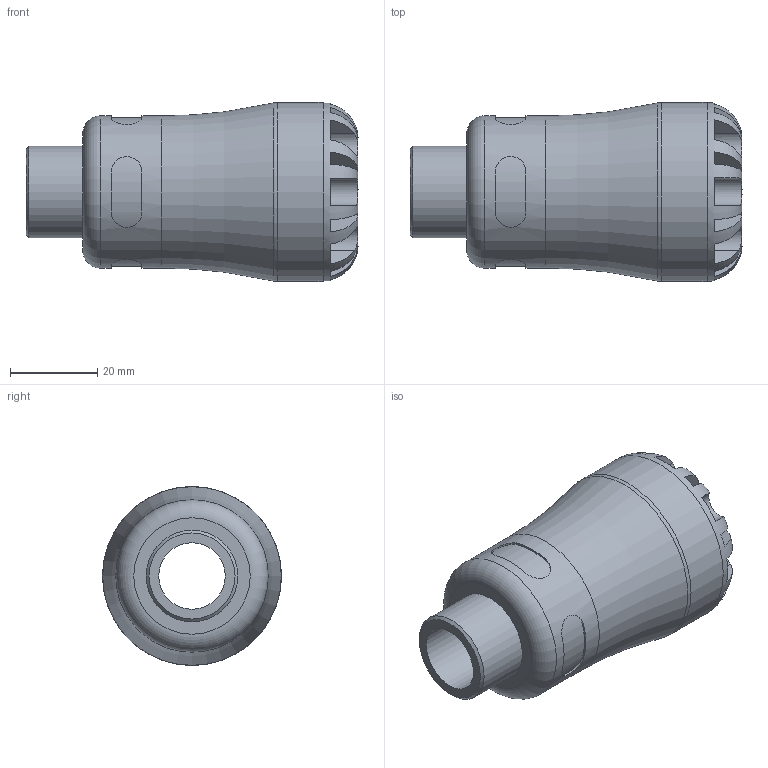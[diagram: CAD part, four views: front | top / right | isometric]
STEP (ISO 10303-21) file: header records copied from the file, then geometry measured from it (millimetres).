
FILE_DESCRIPTION(/* description */ ('PLASSON MALE INTEGRAL BRASS THREAD 20X1/2" SERIES 1'),/* implementation_level */ '2;1');
FILE_NAME(/* name */ 'C:\Dropbox\KIMPROJECTS-Inventor\99-16-3568-Processing\1072\107200020005_197200020005.ipt.stp',/* time_stamp */ '2017-01-22T10:48:41+02:00',/* author */ ('KIM'),/* organization */ (''),/* preprocessor_version */ 'ST-DEVELOPER v15.6',/* originating_system */ 'Autodesk Inventor 2015',/* authorisation */ '');
FILE_SCHEMA (('AUTOMOTIVE_DESIGN { 1 0 10303 214 3 1 1 }'));
Length unit declared in the file: millimetre
Products named in the file (1): 107200020005_197200020005
Bounding box: 76 x 41 x 41 mm (x, y, z)
Volume: 50419 mm3; surface area: 15070.5 mm2
Topology: 1 solids, 1 shells, 99 faces, 245 edges, 153 vertices
Faces by surface type: plane 60, cylinder 33, torus 4, cone 2
Full cylindrical faces by diameter (mm): 15.241 x1, 20 x1, 20.955 x1, 34.85 x1, 41 x1
Entity records: 3745 total; most frequent: CARTESIAN_POINT 1396, ORIENTED_EDGE 460, DIRECTION 452, EDGE_CURVE 230, AXIS2_PLACEMENT_3D 186, VERTEX_POINT 150, EDGE_LOOP 118, STYLED_ITEM 100
